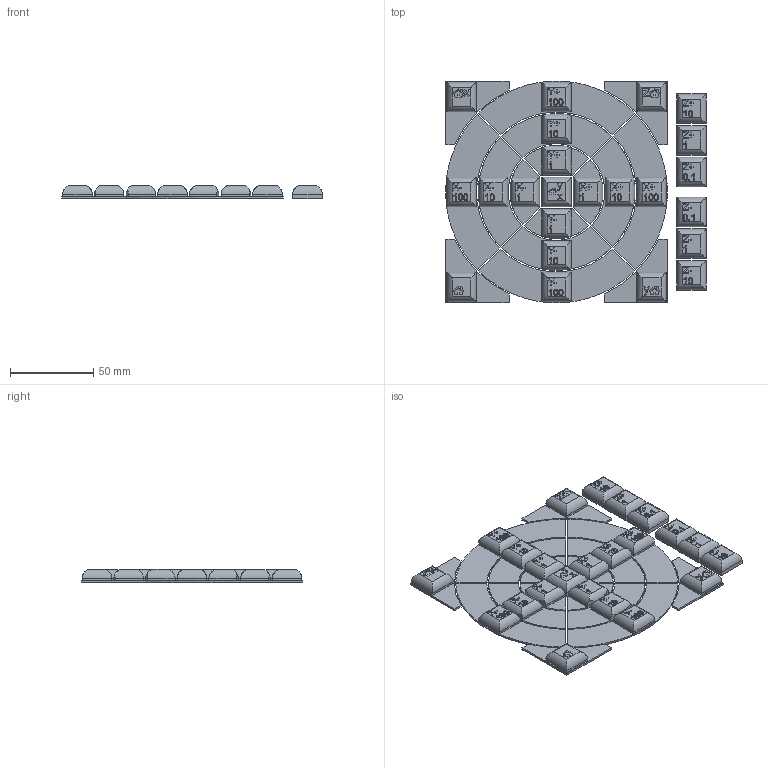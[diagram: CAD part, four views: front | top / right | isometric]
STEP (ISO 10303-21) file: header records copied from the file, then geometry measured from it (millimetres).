
FILE_DESCRIPTION(/* description */ (''),/* implementation_level */ '2;1');
FILE_NAME(/* name */ 'E:/Dropbox/kicad/G-Code_Keeb/CAD/G-Code_keeb.step',/* time_stamp */ '2022-05-18T00:25:02-03:00',/* author */ (''),/* organization */ (''),/* preprocessor_version */ 'ST-DEVELOPER v18.1',/* originating_system */ 'Autodesk Translation Framework v10.14.0.1471',/* authorisation */ '');
FILE_SCHEMA (('AUTOMOTIVE_DESIGN { 1 0 10303 214 3 1 1 }'));
Products named in the file (1): G-Code_keeb
Bounding box: 156.78 x 133.35 x 8.4 mm (x, y, z)
Volume: 41009.5 mm3; surface area: 55757.9 mm2
Topology: 23 solids, 23 shells, 2589 faces, 6465 edges, 4102 vertices
Faces by surface type: plane 1415, bspline 567, cylinder 515, sphere 92
Full cylindrical faces by diameter (mm): 5.5 x23
Entity records: 81043 total; most frequent: CARTESIAN_POINT 23440, ORIENTED_EDGE 12930, DIRECTION 9911, EDGE_CURVE 6465, LINE 4541, VECTOR 4541, VERTEX_POINT 4102, EDGE_LOOP 2769
